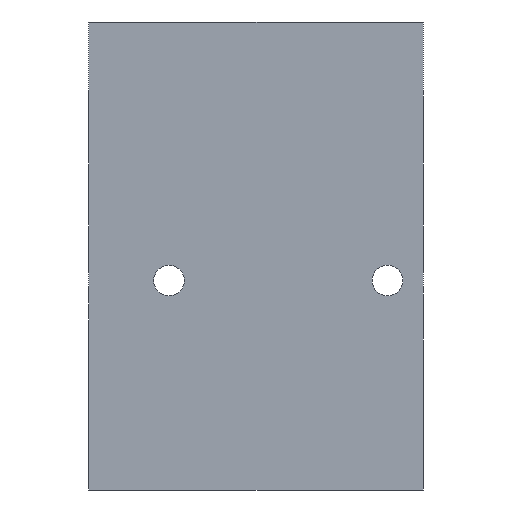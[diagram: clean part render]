
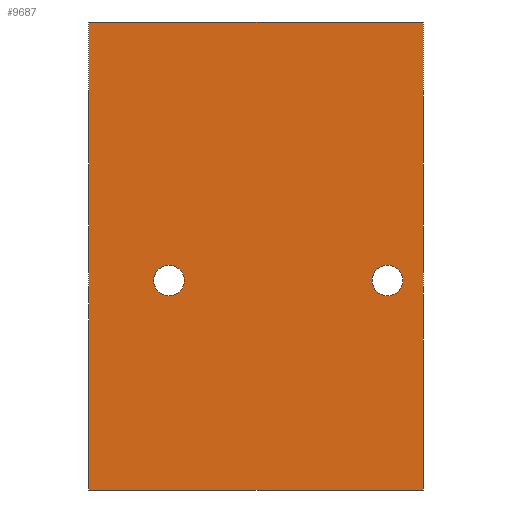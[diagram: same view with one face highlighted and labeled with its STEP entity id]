
A CAD part, front view. The second image highlights one B-rep face of the part: STEP entity #9687.
In plain terms, the highlighted planar face has unit normal (0, -1, 0).
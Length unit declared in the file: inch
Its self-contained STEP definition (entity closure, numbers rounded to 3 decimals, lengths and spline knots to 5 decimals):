
#186 = FACE_OUTER_BOUND ( 'NONE', #1329, .T. ) ;
#877 = ORIENTED_EDGE ( 'NONE', *, *, #8430, .F. ) ;
#1061 = VERTEX_POINT ( 'NONE', #10863 ) ;
#1084 = CARTESIAN_POINT ( 'NONE',  ( 3.35, 0., -3.072 ) ) ;
#1183 = EDGE_CURVE ( 'NONE', #6791, #4534, #7227, .T. ) ;
#1213 = EDGE_CURVE ( 'NONE', #7840, #7886, #1922, .T. ) ;
#1217 = CARTESIAN_POINT ( 'NONE',  ( 3.35, 0., -2.728 ) ) ;
#1329 = EDGE_LOOP ( 'NONE', ( #10754, #877, #1809, #8019 ) ) ;
#1449 = EDGE_LOOP ( 'NONE', ( #8056, #2396 ) ) ;
#1809 = ORIENTED_EDGE ( 'NONE', *, *, #8216, .F. ) ;
#1821 = VERTEX_POINT ( 'NONE', #8465 ) ;
#1901 = LINE ( 'NONE', #8957, #4349 ) ;
#1922 = CIRCLE ( 'NONE', #4505, 0.172 ) ;
#2040 = CARTESIAN_POINT ( 'NONE',  ( 0.9, 0., -2.728 ) ) ;
#2051 = VECTOR ( 'NONE', #6088, 39.37008 ) ;
#2357 = CIRCLE ( 'NONE', #4369, 0.172 ) ;
#2396 = ORIENTED_EDGE ( 'NONE', *, *, #1213, .T. ) ;
#2992 = AXIS2_PLACEMENT_3D ( 'NONE', #6063, #6107, #6040 ) ;
#3216 = CARTESIAN_POINT ( 'NONE',  ( 3.75, 0., 0. ) ) ;
#3917 = VECTOR ( 'NONE', #5258, 39.37008 ) ;
#4202 = CIRCLE ( 'NONE', #7491, 0.172 ) ;
#4235 = EDGE_LOOP ( 'NONE', ( #5959, #6955 ) ) ;
#4349 = VECTOR ( 'NONE', #9344, 39.37008 ) ;
#4369 = AXIS2_PLACEMENT_3D ( 'NONE', #5745, #5788, #5723 ) ;
#4505 = AXIS2_PLACEMENT_3D ( 'NONE', #6966, #6930, #6926 ) ;
#4534 = VERTEX_POINT ( 'NONE', #2040 ) ;
#4579 = AXIS2_PLACEMENT_3D ( 'NONE', #8375, #8350, #8333 ) ;
#5130 = DIRECTION ( 'NONE',  ( 0., 1., 0. ) ) ;
#5143 = DIRECTION ( 'NONE',  ( 0., 0., 1. ) ) ;
#5144 = CARTESIAN_POINT ( 'NONE',  ( 0.9, 0., -2.9 ) ) ;
#5258 = DIRECTION ( 'NONE',  ( -1., 0., 0. ) ) ;
#5280 = CARTESIAN_POINT ( 'NONE',  ( 3.75, 0., 0. ) ) ;
#5723 = DIRECTION ( 'NONE',  ( 0., 0., 1. ) ) ;
#5745 = CARTESIAN_POINT ( 'NONE',  ( 3.35, 0., -2.9 ) ) ;
#5788 = DIRECTION ( 'NONE',  ( 0., 1., 0. ) ) ;
#5827 = CARTESIAN_POINT ( 'NONE',  ( 0., 0., 0. ) ) ;
#5959 = ORIENTED_EDGE ( 'NONE', *, *, #8509, .T. ) ;
#6040 = DIRECTION ( 'NONE',  ( 0., 0., 1. ) ) ;
#6054 = PLANE ( 'NONE',  #2992 ) ;
#6063 = CARTESIAN_POINT ( 'NONE',  ( 3.75, 0., 0. ) ) ;
#6088 = DIRECTION ( 'NONE',  ( 0., 0., -1. ) ) ;
#6107 = DIRECTION ( 'NONE',  ( 0., 1., 0. ) ) ;
#6618 = DIRECTION ( 'NONE',  ( -1., 0., 0. ) ) ;
#6693 = CARTESIAN_POINT ( 'NONE',  ( 3.75, 0., -5.25 ) ) ;
#6791 = VERTEX_POINT ( 'NONE', #7514 ) ;
#6904 = CARTESIAN_POINT ( 'NONE',  ( 0., 0., -5.25 ) ) ;
#6926 = DIRECTION ( 'NONE',  ( 0., 0., 1. ) ) ;
#6930 = DIRECTION ( 'NONE',  ( 0., 1., 0. ) ) ;
#6955 = ORIENTED_EDGE ( 'NONE', *, *, #1183, .T. ) ;
#6966 = CARTESIAN_POINT ( 'NONE',  ( 3.35, 0., -2.9 ) ) ;
#7227 = CIRCLE ( 'NONE', #4579, 0.172 ) ;
#7439 = FACE_BOUND ( 'NONE', #1449, .T. ) ;
#7491 = AXIS2_PLACEMENT_3D ( 'NONE', #5144, #5130, #5143 ) ;
#7514 = CARTESIAN_POINT ( 'NONE',  ( 0.9, 0., -3.072 ) ) ;
#7840 = VERTEX_POINT ( 'NONE', #1084 ) ;
#7886 = VERTEX_POINT ( 'NONE', #1217 ) ;
#8019 = ORIENTED_EDGE ( 'NONE', *, *, #8520, .T. ) ;
#8056 = ORIENTED_EDGE ( 'NONE', *, *, #8457, .T. ) ;
#8216 = EDGE_CURVE ( 'NONE', #10983, #1061, #1901, .T. ) ;
#8333 = DIRECTION ( 'NONE',  ( 0., 0., 1. ) ) ;
#8350 = DIRECTION ( 'NONE',  ( 0., 1., 0. ) ) ;
#8375 = CARTESIAN_POINT ( 'NONE',  ( 0.9, 0., -2.9 ) ) ;
#8380 = VERTEX_POINT ( 'NONE', #6904 ) ;
#8430 = EDGE_CURVE ( 'NONE', #1061, #8380, #11081, .T. ) ;
#8447 = LINE ( 'NONE', #5280, #3917 ) ;
#8457 = EDGE_CURVE ( 'NONE', #7886, #7840, #2357, .T. ) ;
#8460 = EDGE_CURVE ( 'NONE', #1821, #8380, #9204, .T. ) ;
#8465 = CARTESIAN_POINT ( 'NONE',  ( 0., 0., 0. ) ) ;
#8509 = EDGE_CURVE ( 'NONE', #4534, #6791, #4202, .T. ) ;
#8520 = EDGE_CURVE ( 'NONE', #10983, #1821, #8447, .T. ) ;
#8947 = VECTOR ( 'NONE', #6618, 39.37008 ) ;
#8957 = CARTESIAN_POINT ( 'NONE',  ( 3.75, 0., 0. ) ) ;
#9204 = LINE ( 'NONE', #5827, #2051 ) ;
#9344 = DIRECTION ( 'NONE',  ( 0., 0., -1. ) ) ;
#9556 = FACE_BOUND ( 'NONE', #4235, .T. ) ;
#9687 = ADVANCED_FACE ( 'NONE', ( #9556, #7439, #186 ), #6054, .F. ) ;
#10754 = ORIENTED_EDGE ( 'NONE', *, *, #8460, .T. ) ;
#10863 = CARTESIAN_POINT ( 'NONE',  ( 3.75, 0., -5.25 ) ) ;
#10983 = VERTEX_POINT ( 'NONE', #3216 ) ;
#11081 = LINE ( 'NONE', #6693, #8947 ) ;
